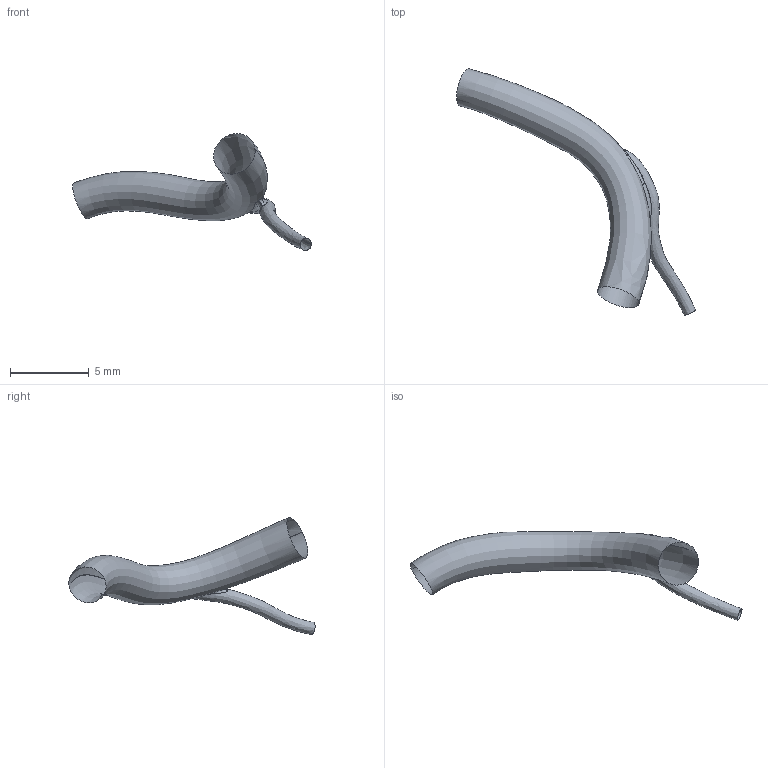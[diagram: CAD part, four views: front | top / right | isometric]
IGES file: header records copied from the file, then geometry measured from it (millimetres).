
Global section: file name: C:\Documents and Settings\Administrator\Desktop\FDA-Pig\Domestic RCA\Pig_000011\rv.ed.igs; native system: Rhinoceros ( May 19 2006 ); preprocessor: Trout Lake IGES 012 May 19 2006; date: 111205.185706; units: centimetre
Bounding box: 15.12 x 15.59 x 7.4 mm (x, y, z)
Surface area: 186.4 mm2 (no closed solid volume)
Topology: 0 solids, 0 shells, 5 faces, 63 edges, 62 vertices
Faces by surface type: bspline 5
